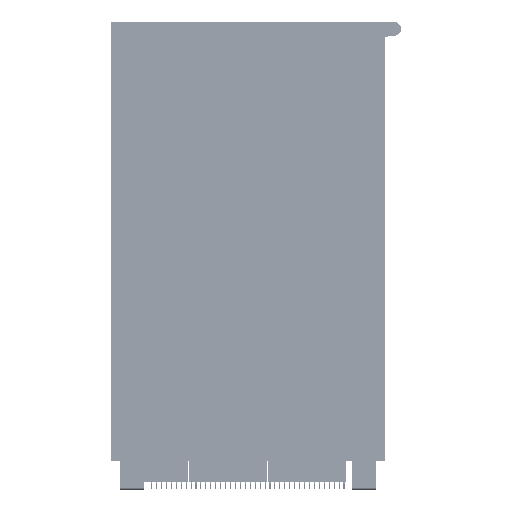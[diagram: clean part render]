
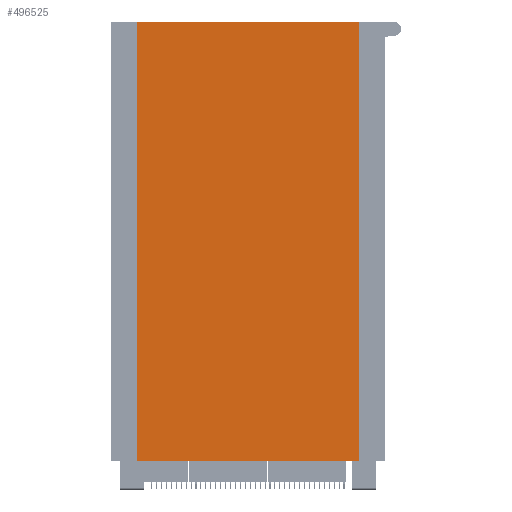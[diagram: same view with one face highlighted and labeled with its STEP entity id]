
A CAD part, front view. The second image highlights one B-rep face of the part: STEP entity #496525.
In plain terms, the highlighted planar face has unit normal (0, -1, 0).
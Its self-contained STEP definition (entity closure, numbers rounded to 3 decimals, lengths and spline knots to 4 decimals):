
#109275 = EDGE_LOOP ( 'NONE', ( #374959, #476568, #437637, #112821 ) ) ;
#110003 = CARTESIAN_POINT ( 'NONE',  ( 1.5985, -0.755, -6.2992 ) ) ;
#112821 = ORIENTED_EDGE ( 'NONE', *, *, #704913, .T. ) ;
#127846 = DIRECTION ( 'NONE',  ( -1., 0., 0. ) ) ;
#142559 = CARTESIAN_POINT ( 'NONE',  ( -1.5985, -0.755, -6.2992 ) ) ;
#148651 = CARTESIAN_POINT ( 'NONE',  ( -1.5985, -0.755, 0. ) ) ;
#167196 = DIRECTION ( 'NONE',  ( 0., 0., 1. ) ) ;
#172131 = VECTOR ( 'NONE', #501555, 39.3701 ) ;
#178474 = LINE ( 'NONE', #110003, #614108 ) ;
#189935 = LINE ( 'NONE', #272897, #172131 ) ;
#198896 = FACE_OUTER_BOUND ( 'NONE', #109275, .T. ) ;
#199983 = CARTESIAN_POINT ( 'NONE',  ( 0., -0.755, 0. ) ) ;
#203894 = CARTESIAN_POINT ( 'NONE',  ( 1.5985, -0.755, 0. ) ) ;
#257031 = DIRECTION ( 'NONE',  ( -1., 0., 0. ) ) ;
#259677 = AXIS2_PLACEMENT_3D ( 'NONE', #578508, #706446, #127846 ) ;
#262996 = DIRECTION ( 'NONE',  ( 0., 0., 1. ) ) ;
#272897 = CARTESIAN_POINT ( 'NONE',  ( 0., -0.755, -6.2992 ) ) ;
#314934 = VECTOR ( 'NONE', #257031, 39.3701 ) ;
#316553 = EDGE_CURVE ( 'NONE', #380305, #585864, #189935, .T. ) ;
#317494 = VECTOR ( 'NONE', #262996, 39.3701 ) ;
#350494 = EDGE_CURVE ( 'NONE', #650966, #697706, #617419, .T. ) ;
#374959 = ORIENTED_EDGE ( 'NONE', *, *, #350494, .T. ) ;
#380305 = VERTEX_POINT ( 'NONE', #505871 ) ;
#398713 = EDGE_CURVE ( 'NONE', #585864, #697706, #602114, .T. ) ;
#437637 = ORIENTED_EDGE ( 'NONE', *, *, #316553, .F. ) ;
#476568 = ORIENTED_EDGE ( 'NONE', *, *, #398713, .F. ) ;
#496525 = ADVANCED_FACE ( 'NONE', ( #198896 ), #521404, .F. ) ;
#501555 = DIRECTION ( 'NONE',  ( -1., 0., 0. ) ) ;
#505871 = CARTESIAN_POINT ( 'NONE',  ( 1.5985, -0.755, -6.2992 ) ) ;
#521404 = PLANE ( 'NONE',  #259677 ) ;
#578508 = CARTESIAN_POINT ( 'NONE',  ( 0., -0.755, -6.2992 ) ) ;
#585864 = VERTEX_POINT ( 'NONE', #142559 ) ;
#602114 = LINE ( 'NONE', #603538, #317494 ) ;
#603538 = CARTESIAN_POINT ( 'NONE',  ( -1.5985, -0.755, -6.2992 ) ) ;
#614108 = VECTOR ( 'NONE', #167196, 39.3701 ) ;
#617419 = LINE ( 'NONE', #199983, #314934 ) ;
#650966 = VERTEX_POINT ( 'NONE', #203894 ) ;
#697706 = VERTEX_POINT ( 'NONE', #148651 ) ;
#704913 = EDGE_CURVE ( 'NONE', #380305, #650966, #178474, .T. ) ;
#706446 = DIRECTION ( 'NONE',  ( 0., 1., 0. ) ) ;
